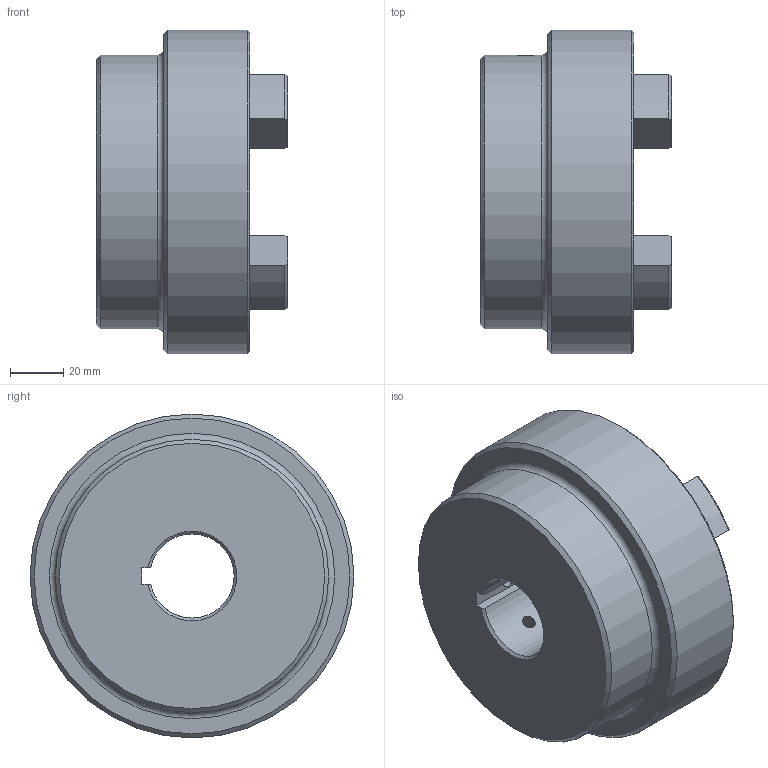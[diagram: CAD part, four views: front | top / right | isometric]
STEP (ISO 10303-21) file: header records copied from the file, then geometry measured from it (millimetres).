
FILE_DESCRIPTION (( 'STEP AP203' ), '1' );
FILE_NAME ('RC5.step', '2024-07-25T13:23:35', ( 'Adlan' ), ( '' ), 'SwSTEP 2.0', 'SolidWorks 2013', '' );
FILE_SCHEMA (( 'CONFIG_CONTROL_DESIGN' ));
Length unit declared in the file: inch
Products named in the file (1): RC5
Bounding box: 72.14 x 122.17 x 122.17 mm (x, y, z)
Volume: 444699.7 mm3; surface area: 59480.8 mm2
Topology: 1 solids, 1 shells, 83 faces, 210 edges, 131 vertices
Faces by surface type: cylinder 33, plane 19, torus 17, cone 14
Full cylindrical faces by diameter (mm): 5.105 x2, 103.124 x1, 122.174 x1
Entity records: 2759 total; most frequent: CARTESIAN_POINT 678, DIRECTION 446, ORIENTED_EDGE 394, EDGE_CURVE 197, AXIS2_PLACEMENT_3D 178, VERTEX_POINT 128, EDGE_LOOP 101, CIRCLE 94
